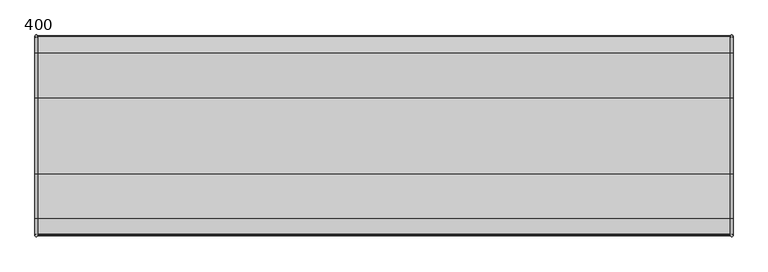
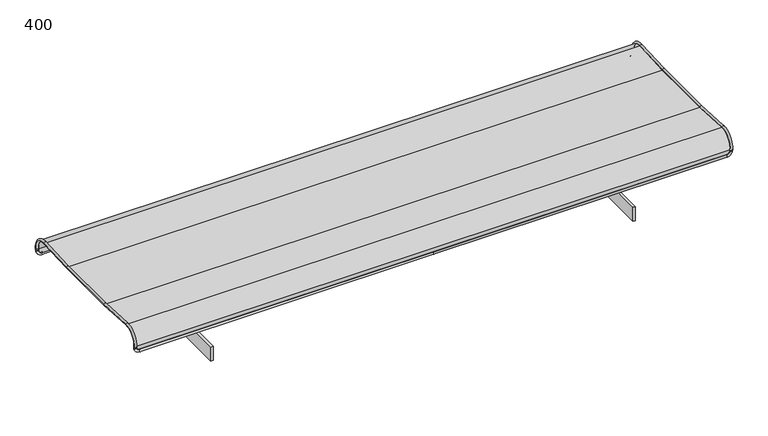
"""IFC4 building model written with IfcOpenShell, lengths in millimetres: furniture geometry, Vestre - Munch - 5106 : 400."""

import ifcopenshell
import ifcopenshell.guid

model = None  # the IFC model being written
_history = None  # IfcOwnerHistory: only IFC2X3 demands one
_inside = {}  # id of a spatial element -> (the spatial element, [elements in it])
_under = {}  # id of a project, library or spatial element -> (it, [spatial elements below it])
_declared = {}  # id of a project -> (the project, [libraries it declares])
_typed = {}  # id of a type object -> (the type object, [elements of that type])
_made_of = {}  # id of a material, layer set ... -> (it, [elements and type objects made of it])


def new_model(schema):
    """Start an empty IFC model of exactly this schema.

    Asked for "IFC4X3", IfcOpenShell would pick the latest addendum, in which some entities
    have other attributes; the version numbers below select the first issue.
    IFC2X3 requires an IfcOwnerHistory on every rooted entity: one is made here for all.
    """
    global model, _history
    if schema == "IFC4X3":
        model = ifcopenshell.file(schema_version=(4, 3, 0, 0))
    else:
        model = ifcopenshell.file(schema=schema)
    _inside.clear()
    _under.clear()
    _declared.clear()
    _typed.clear()
    _made_of.clear()
    _history = None
    if model.schema == "IFC2X3":
        org = make("IfcOrganization", Name="unknown")
        user = make(
            "IfcPersonAndOrganization",
            ThePerson=make("IfcPerson", FamilyName="unknown"),
            TheOrganization=org,
        )
        app = make(
            "IfcApplication",
            ApplicationDeveloper=org,
            Version="unknown",
            ApplicationFullName="unknown",
            ApplicationIdentifier="unknown",
        )
        _history = make(
            "IfcOwnerHistory",
            OwningUser=user,
            OwningApplication=app,
            ChangeAction="ADDED",
            CreationDate=0,
        )
    return model


def make(cls, **values):
    """One entity of the class cls with the attributes given. An attribute that is None is left unset."""
    return model.create_entity(
        cls, **{name: value for name, value in values.items() if value is not None}
    )


def rooted(cls, **values):
    """An entity with a GlobalId (a new one), such as an element, a storey or a relation."""
    return make(cls, GlobalId=ifcopenshell.guid.new(), OwnerHistory=_history, **values)


def si_unit(unit_type, name, prefix=None):
    """IfcSIUnit, for example si_unit("LENGTHUNIT", "METRE", prefix="MILLI")."""
    return make("IfcSIUnit", UnitType=unit_type, Prefix=prefix, Name=name)


def assignment(units):
    """IfcUnitAssignment: the units of a project."""
    return None if units is None else make("IfcUnitAssignment", Units=units)


def point(xyz):
    """IfcCartesianPoint."""
    return None if xyz is None else make("IfcCartesianPoint", Coordinates=xyz)


def direction(xyz):
    """IfcDirection."""
    return None if xyz is None else make("IfcDirection", DirectionRatios=xyz)


def frame(location, z_axis=None, x_axis=None):
    """IfcAxis2Placement3D, a coordinate frame: its origin and axes. An axis left out is left unset."""
    return make(
        "IfcAxis2Placement3D",
        Location=point(location),
        Axis=direction(z_axis),
        RefDirection=direction(x_axis),
    )


def frame_2d(location, x_axis=None):
    """IfcAxis2Placement2D, a coordinate frame in the plane: its origin and x axis."""
    return make(
        "IfcAxis2Placement2D", Location=point(location), RefDirection=direction(x_axis)
    )


def origin():
    """The frame at (0, 0, 0) with its axes left unset."""
    return frame((0.0, 0.0, 0.0))


def place(relative_to, where):
    """IfcLocalPlacement: puts the frame where relative to a parent placement (None: the world)."""
    return make(
        "IfcLocalPlacement", PlacementRelTo=relative_to, RelativePlacement=where
    )


def context(
    kind, dimensions, precision=None, world=None, true_north=None, identifier=None
):
    """IfcGeometricRepresentationContext, for example the 3D "Model" context."""
    return make(
        "IfcGeometricRepresentationContext",
        ContextIdentifier=identifier,
        ContextType=kind,
        CoordinateSpaceDimension=dimensions,
        Precision=precision,
        WorldCoordinateSystem=world,
        TrueNorth=true_north,
    )


def project(units=None, contexts=None):
    """IfcProject with its units and contexts."""
    return rooted(
        "IfcProject",
        Name="project",
        RepresentationContexts=contexts,
        UnitsInContext=assignment(units),
    )


def spatial(cls, under=None, at=None, **own):
    """A site, building, storey or space (cls), placed at a placement, below another one or the project."""
    s = rooted(cls, ObjectPlacement=at, **own)
    if under is not None:
        _under.setdefault(under.id(), (under, []))[1].append(s)
    return s


def polyline(points):
    """IfcPolyline through the points."""
    return make("IfcPolyline", Points=[point(p) for p in points])


def circle_curve(where, radius):
    """IfcCircle in the frame where."""
    return make("IfcCircle", Position=where, Radius=radius)


def ellipse_curve(where, semi_axis1, semi_axis2):
    """IfcEllipse in the frame where."""
    return make(
        "IfcEllipse", Position=where, SemiAxis1=semi_axis1, SemiAxis2=semi_axis2
    )


def trimmed(basis, trim1, trim2, sense, master):
    """IfcTrimmedCurve: the piece of a basis curve between two trims."""
    return make(
        "IfcTrimmedCurve",
        BasisCurve=basis,
        Trim1=trim1,
        Trim2=trim2,
        SenseAgreement=sense,
        MasterRepresentation=master,
    )


def segment(curve, same_sense, transition):
    """IfcCompositeCurveSegment."""
    return make(
        "IfcCompositeCurveSegment",
        Transition=transition,
        SameSense=same_sense,
        ParentCurve=curve,
    )


def composite_curve(segments, self_intersect=None):
    """IfcCompositeCurve: segments joined end to end."""
    return make("IfcCompositeCurve", Segments=segments, SelfIntersect=self_intersect)


def outline(outer, holes=None, kind="AREA"):
    """IfcArbitraryClosedProfileDef: a profile drawn as a closed curve; with holes, ...WithVoids."""
    if holes is None:
        return make("IfcArbitraryClosedProfileDef", ProfileType=kind, OuterCurve=outer)
    return make(
        "IfcArbitraryProfileDefWithVoids",
        ProfileType=kind,
        OuterCurve=outer,
        InnerCurves=holes,
    )


def extrude(swept, where, along, depth):
    """IfcExtrudedAreaSolid: the profile swept, set in the frame where, extruded along a direction by depth."""
    return make(
        "IfcExtrudedAreaSolid",
        SweptArea=swept,
        Position=where,
        ExtrudedDirection=direction(along),
        Depth=depth,
    )


def shape(context_of_items, identifier, shape_type, items):
    """IfcShapeRepresentation: the items that make up one representation, for example the "Body"."""
    return make(
        "IfcShapeRepresentation",
        ContextOfItems=context_of_items,
        RepresentationIdentifier=identifier,
        RepresentationType=shape_type,
        Items=items,
    )


def source(mapping_origin, context_of_items, identifier, shape_type, items):
    """IfcRepresentationMap: a shape defined once, which mapped items show again and again."""
    return make(
        "IfcRepresentationMap",
        MappingOrigin=mapping_origin,
        MappedRepresentation=shape(context_of_items, identifier, shape_type, items),
    )


def transform(
    local_origin,
    x_axis=None,
    y_axis=None,
    z_axis=None,
    scale=None,
    scale2=None,
    scale3=None,
    uniform=True,
):
    """IfcCartesianTransformationOperator3D, or its non-uniform kind. x_axis, y_axis, z_axis: its Axis1, 2, 3."""
    if uniform:
        return make(
            "IfcCartesianTransformationOperator3D",
            Axis1=direction(x_axis),
            Axis2=direction(y_axis),
            LocalOrigin=point(local_origin),
            Scale=scale,
            Axis3=direction(z_axis),
        )
    return make(
        "IfcCartesianTransformationOperator3DnonUniform",
        Axis1=direction(x_axis),
        Axis2=direction(y_axis),
        LocalOrigin=point(local_origin),
        Scale=scale,
        Axis3=direction(z_axis),
        Scale2=scale2,
        Scale3=scale3,
    )


def mapped(mapping_source, mapping_target):
    """IfcMappedItem: shows the shape of a source again, moved by a transform."""
    return make(
        "IfcMappedItem", MappingSource=mapping_source, MappingTarget=mapping_target
    )


def made_of(thing, what):
    """Note that an element or type object is made of a material, layer set ...; save() writes the relation."""
    if what is not None:
        _made_of.setdefault(what.id(), (what, []))[1].append(thing)
    return thing


def element(
    cls,
    number,
    at=None,
    inside=None,
    cuts=None,
    type_object=None,
    material=None,
    context=None,
    identifier="Body",
    shape_type=None,
    held_by="IfcProductDefinitionShape",
    body=None,
    shapes=None,
    **own,
):
    """One element of the class cls, such as IfcWall. Its Tag is "e" and its number.

    at: its placement. inside: the storey or other place that contains it. cuts: it is an
    opening in that element (IfcRelVoidsElement). A single representation is given by context,
    identifier, shape_type and body (its items); several are given by shapes. held_by: the class
    of the entity that holds the representations. save() writes the other relations.
    """
    e = rooted(cls, Tag="e%d" % number, ObjectPlacement=at, **own)
    if body is not None:
        shapes = [shape(context, identifier, shape_type, body)]
    if shapes is not None:
        e.Representation = make(held_by, Representations=shapes)
    if inside is not None:
        _inside.setdefault(inside.id(), (inside, []))[1].append(e)
    if cuts is not None:
        rooted(
            "IfcRelVoidsElement", RelatingBuildingElement=cuts, RelatedOpeningElement=e
        )
    if type_object is not None:
        _typed.setdefault(type_object.id(), (type_object, []))[1].append(e)
    return made_of(e, material)


def aggregate(whole, parts):
    """IfcRelAggregates: a whole, such as a stair, and the parts it consists of."""
    return rooted("IfcRelAggregates", RelatingObject=whole, RelatedObjects=parts)


def save(model, path):
    """Write the relations noted so far, then the file.

    IfcRelAggregates (storeys below a building ...), IfcRelContainedInSpatialStructure (elements
    in a storey), IfcRelDefinesByType, IfcRelAssociatesMaterial and IfcRelDeclares: one each for
    every whole, place, type object, material and project.
    """
    for whole, parts in _under.values():
        aggregate(whole, parts)
    for where, things in _inside.values():
        rooted(
            "IfcRelContainedInSpatialStructure",
            RelatedElements=things,
            RelatingStructure=where,
        )
    for kind, things in _typed.values():
        rooted("IfcRelDefinesByType", RelatedObjects=things, RelatingType=kind)
    for what, things in _made_of.values():
        rooted("IfcRelAssociatesMaterial", RelatedObjects=things, RelatingMaterial=what)
    for by, libraries in _declared.values():
        rooted("IfcRelDeclares", RelatingContext=by, RelatedDefinitions=libraries)
    model.write(path)


def cylinder_surface(at, radius):
    """IfcCylindricalSurface: all points at the distance radius from the z axis of the frame at."""
    return make("IfcCylindricalSurface", Position=at, Radius=radius)


def revolved_surface(curve, axis_point, axis_direction):
    """IfcSurfaceOfRevolution: the curve turned about the line through axis_point along axis_direction."""
    return make(
        "IfcSurfaceOfRevolution",
        SweptCurve=make("IfcArbitraryOpenProfileDef", ProfileType="CURVE", Curve=curve),
        AxisPosition=make("IfcAxis1Placement", Location=point(axis_point), Axis=direction(axis_direction)),
    )


def advanced_brep(points, edges, surfaces, faces):
    """IfcAdvancedBrep: a solid bounded by faces that lie on surfaces and meet in shared edges.

    An edge is (start, end): straight between two places in points (the first is 0);
    or (start, end, curve); or (start, end, curve, False) where it runs against its curve.
    A face is (place in surfaces, loops), or (place, loops, False) where it looks against
    its surface's normal. A loop lists edges by number (the first is 1), with a minus sign
    where the edge is run from its end to its start. The first loop is the outer one.
    """
    corners = [point(p) for p in points]
    vertices = [make("IfcVertexPoint", VertexGeometry=c) for c in corners]
    made = []
    for start, end, *more in edges:
        made.append(
            make(
                "IfcEdgeCurve",
                EdgeStart=vertices[start],
                EdgeEnd=vertices[end],
                EdgeGeometry=more[0] if more else make("IfcPolyline", Points=[corners[start], corners[end]]),
                SameSense=more[1] if len(more) > 1 else True,
            )
        )
    hull = []
    for where, loops, *sense in faces:
        bounds = []
        for j, loop in enumerate(loops):
            ring = [make("IfcOrientedEdge", EdgeElement=made[abs(k) - 1], Orientation=k > 0) for k in loop]
            bounds.append(
                make(
                    "IfcFaceOuterBound" if j == 0 else "IfcFaceBound",
                    Bound=make("IfcEdgeLoop", EdgeList=ring),
                    Orientation=True,
                )
            )
        hull.append(make("IfcAdvancedFace", Bounds=bounds, FaceSurface=surfaces[where], SameSense=sense[0] if sense else True))
    return make("IfcAdvancedBrep", Outer=make("IfcClosedShell", CfsFaces=hull))


def furniture_400_deac8230(model_context):
    return source(origin(), model_context, "Body", "SolidModel", [
        advanced_brep(
        [(-999.5462493, 284.4659394, 360.5104882), (-999.5462493, 284.7053914, 362.4961022), (-991.5462493, 284.7053914, 362.4961022), (-991.5462493, 284.4659394, 360.5104882), (-999.5462493, 237.4859431, 412.9140708), (-991.5462493, 237.4859431, 412.9140708), (-999.5462493, 108.7493766, 405.8885189), (-991.5462493, 108.7493766, 405.8885189), (-999.5462493, -108.7732306, 405.8885189), (-991.5462493, -108.7732306, 405.8885189), (-999.5462493, -236.3198142, 412.8491298), (-991.5462493, -236.3198142, 412.8491298), (-999.5462493, -284.5865614, 361.3129209), (-991.5462493, -284.5865614, 361.3129209), (-999.5462493, -284.3471094, 359.3273069), (-991.5462493, -284.3471094, 359.3273069), (0.0, 282.8913258, 347.4532831), (-980.5462493, 282.8913258, 347.4532831), (-980.5462493, 281.9335176, 339.5108274), (0.0, 281.9335176, 339.5108274), (-999.5462493, 284.2083121, 358.3741598), (-991.5462493, 284.2083121, 358.3741598), (0.0, -281.8146877, 338.3276461), (-980.5462493, -281.8146877, 338.3276461), (-980.5462493, -282.7724959, 346.2701019), (0.0, -282.7724959, 346.2701019), (-991.5462493, -284.0894821, 357.1909785), (-999.5462493, -284.0894821, 357.1909785), (980.5462493, -282.7724959, 346.2701019), (980.5462493, -281.8146877, 338.3276461), (999.5462493, -284.0894821, 357.1909785), (991.5462493, -284.0894821, 357.1909785), (991.5462493, -284.3471094, 359.3273069), (999.5462493, -284.3471094, 359.3273069), (991.5462493, 284.4659394, 360.5104882), (991.5462493, 284.7053914, 362.4961022), (999.5462493, 284.7053914, 362.4961022), (999.5462493, 284.4659394, 360.5104882), (991.5462493, 237.4859431, 412.9140708), (999.5462493, 237.4859431, 412.9140708), (991.5462493, 108.7493766, 405.8885189), (999.5462493, 108.7493766, 405.8885189), (991.5462493, -108.7732306, 405.8885189), (999.5462493, -108.7732306, 405.8885189), (991.5462493, -236.3198142, 412.8491298), (999.5462493, -236.3198142, 412.8491298), (991.5462493, -284.5865614, 361.3129209), (999.5462493, -284.5865614, 361.3129209), (980.5462493, 281.9335176, 339.5108274), (980.5462493, 282.8913258, 347.4532831), (991.5462493, 284.2083121, 358.3741598), (999.5462493, 284.2083121, 358.3741598)],
        [
            (0, 1),
            (1, 2, circle_curve(frame((-995.5462493, 284.7053914, 362.4961022), z_axis=(0.0, -0.11972602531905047, -0.9928069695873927), x_axis=(1.0, 0.0, 0.0)), 4.0)),
            (2, 3),
            (3, 0, circle_curve(frame((-995.5462493, 284.4659394, 360.5104882), z_axis=(0.0, 0.11972602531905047, 0.9928069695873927), x_axis=(1.0, 0.0, 0.0)), 4.0)),
            (0, 3, circle_curve(frame((-995.5462493, 284.4659394, 360.5104882), z_axis=(0.0, 0.11972602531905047, 0.9928069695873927), x_axis=(1.0, 0.0, 0.0)), 4.0)),
            (2, 1, circle_curve(frame((-995.5462493, 284.7053914, 362.4961022), z_axis=(0.0, -0.11972602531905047, -0.9928069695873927), x_axis=(1.0, 0.0, 0.0)), 4.0)),
            (1, 4, circle_curve(frame((-999.5462493, 239.9428178, 367.8941757), z_axis=(1.0, 0.0, 0.0), x_axis=(0.0, 0.9928069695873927, -0.11972602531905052)), 45.0868849)),
            (4, 5, circle_curve(frame((-995.5462493, 237.4859431, 412.9140708), z_axis=(0.0, 0.9985142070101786, 0.05449200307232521), x_axis=(1.0, 0.0, 0.0)), 4.0)),
            (5, 2, circle_curve(frame((-991.5462493, 239.9428178, 367.8941757), z_axis=(-1.0, 0.0, 0.0), x_axis=(0.0, 0.9928069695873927, -0.11972602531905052)), 45.0868849)),
            (5, 4, circle_curve(frame((-995.5462493, 237.4859431, 412.9140708), z_axis=(0.0, 0.9985142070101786, 0.05449200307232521), x_axis=(1.0, 0.0, 0.0)), 4.0)),
            (4, 6),
            (6, 7, circle_curve(frame((-995.5462493, 108.7493766, 405.8885189), z_axis=(0.0, 0.9985142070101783, 0.0544920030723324), x_axis=(1.0, 0.0, 0.0)), 4.0)),
            (7, 5),
            (7, 6, circle_curve(frame((-995.5462493, 108.7493766, 405.8885189), z_axis=(0.0, 0.9985142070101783, 0.0544920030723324), x_axis=(1.0, 0.0, 0.0)), 4.0)),
            (6, 8, circle_curve(frame((-999.5462493, -0.011927, 2398.8361203), z_axis=(-1.0, 0.0, 0.0), x_axis=(0.0, 0.054492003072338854, -0.9985142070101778)), 1995.9131151)),
            (8, 9, circle_curve(frame((-995.5462493, -108.7732306, 405.8885189), z_axis=(0.0, 0.9985142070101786, -0.05449200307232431), x_axis=(1.0, 0.0, 0.0)), 4.0)),
            (9, 7, circle_curve(frame((-991.5462493, -0.011927, 2398.8361203), z_axis=(1.0, 0.0, 0.0), x_axis=(0.0, 0.054492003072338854, -0.9985142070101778)), 1995.9131151)),
            (9, 8, circle_curve(frame((-995.5462493, -108.7732306, 405.8885189), z_axis=(0.0, 0.9985142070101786, -0.05449200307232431), x_axis=(1.0, 0.0, 0.0)), 4.0)),
            (8, 10),
            (10, 11, circle_curve(frame((-995.5462493, -236.3198142, 412.8491298), z_axis=(0.0, 0.9985142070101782, -0.05449200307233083), x_axis=(1.0, 0.0, 0.0)), 4.0)),
            (11, 9),
            (11, 10, circle_curve(frame((-995.5462493, -236.3198142, 412.8491298), z_axis=(0.0, 0.9985142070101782, -0.05449200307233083), x_axis=(1.0, 0.0, 0.0)), 4.0)),
            (10, 12, circle_curve(frame((-999.5462493, -238.8311808, 366.8307204), z_axis=(1.0, 0.0, 0.0), x_axis=(0.0, 0.05449200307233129, 0.9985142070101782)), 46.0868849)),
            (12, 13, circle_curve(frame((-995.5462493, -284.5865614, 361.3129209), z_axis=(0.0, -0.11972602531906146, 0.9928069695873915), x_axis=(1.0, 0.0, 0.0)), 4.0)),
            (13, 11, circle_curve(frame((-991.5462493, -238.8311808, 366.8307204), z_axis=(-1.0, 0.0, 0.0), x_axis=(0.0, 0.05449200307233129, 0.9985142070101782)), 46.0868849)),
            (13, 12, circle_curve(frame((-995.5462493, -284.5865614, 361.3129209), z_axis=(0.0, -0.11972602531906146, 0.9928069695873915), x_axis=(1.0, 0.0, 0.0)), 4.0)),
            (12, 14),
            (14, 15, circle_curve(frame((-995.5462493, -284.3471094, 359.3273069), z_axis=(0.0, -0.11972602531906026, 0.9928069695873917), x_axis=(1.0, 0.0, 0.0)), 4.0)),
            (15, 13),
            (15, 14, circle_curve(frame((-995.5462493, -284.3471094, 359.3273069), z_axis=(0.0, -0.11972602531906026, 0.9928069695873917), x_axis=(1.0, 0.0, 0.0)), 4.0)),
            (16, 17),
            (17, 18, circle_curve(frame((-980.5462493, 282.4124217, 343.4820553), z_axis=(1.0, 0.0, 0.0), x_axis=(0.0, 0.1197260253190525, 0.9928069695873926)), 4.0)),
            (18, 19),
            (19, 16, circle_curve(frame((0.0, 282.4124217, 343.4820553), z_axis=(-1.0, 0.0, 0.0), x_axis=(0.0, 0.1197260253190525, 0.9928069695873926)), 4.0)),
            (16, 19, circle_curve(frame((0.0, 282.4124217, 343.4820553), z_axis=(-1.0, 0.0, 0.0), x_axis=(0.0, 0.1197260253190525, 0.9928069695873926)), 4.0)),
            (18, 17, circle_curve(frame((-980.5462493, 282.4124217, 343.4820553), z_axis=(1.0, 0.0, 0.0), x_axis=(0.0, 0.1197260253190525, 0.9928069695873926)), 4.0)),
            (20, 21, circle_curve(frame((-995.5462493, 284.2083121, 358.3741598), z_axis=(0.0, 0.11972602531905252, 0.9928069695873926), x_axis=(1.0, 0.0, 0.0)), 4.0)),
            (21, 3),
            (0, 20),
            (21, 20, circle_curve(frame((-995.5462493, 284.2083121, 358.3741598), z_axis=(0.0, 0.11972602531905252, 0.9928069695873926), x_axis=(1.0, 0.0, 0.0)), 4.0)),
            (17, 21, circle_curve(frame((-980.5462493, 284.2083121, 358.3741598), z_axis=(0.0, 0.9928069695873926, -0.1197260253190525), x_axis=(0.0, -0.1197260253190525, -0.9928069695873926)), 11.0)),
            (20, 18, circle_curve(frame((-980.5462493, 284.2083121, 358.3741598), z_axis=(0.0, -0.9928069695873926, 0.1197260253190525), x_axis=(0.0, -0.1197260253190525, -0.9928069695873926)), 19.0)),
            (22, 23),
            (23, 24, circle_curve(frame((-980.5462493, -282.2935918, 342.298874), z_axis=(1.0, 0.0, 0.0), x_axis=(0.0, -0.1197260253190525, 0.9928069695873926)), 4.0)),
            (24, 25),
            (25, 22, circle_curve(frame((0.0, -282.2935918, 342.298874), z_axis=(-1.0, 0.0, 0.0), x_axis=(0.0, -0.1197260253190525, 0.9928069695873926)), 4.0)),
            (22, 25, circle_curve(frame((0.0, -282.2935918, 342.298874), z_axis=(-1.0, 0.0, 0.0), x_axis=(0.0, -0.1197260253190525, 0.9928069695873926)), 4.0)),
            (24, 23, circle_curve(frame((-980.5462493, -282.2935918, 342.298874), z_axis=(1.0, 0.0, 0.0), x_axis=(0.0, -0.1197260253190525, 0.9928069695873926)), 4.0)),
            (26, 27, circle_curve(frame((-995.5462493, -284.0894821, 357.1909785), z_axis=(0.0, -0.11972602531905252, 0.9928069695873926), x_axis=(1.0, 0.0, 0.0)), 4.0)),
            (27, 14),
            (15, 26),
            (27, 26, circle_curve(frame((-995.5462493, -284.0894821, 357.1909785), z_axis=(0.0, -0.11972602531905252, 0.9928069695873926), x_axis=(1.0, 0.0, 0.0)), 4.0)),
            (23, 27, circle_curve(frame((-980.5462493, -284.0894821, 357.1909785), z_axis=(0.0, 0.9928069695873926, 0.1197260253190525), x_axis=(0.0, 0.1197260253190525, -0.9928069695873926)), 19.0)),
            (26, 24, circle_curve(frame((-980.5462493, -284.0894821, 357.1909785), z_axis=(0.0, -0.9928069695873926, -0.1197260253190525), x_axis=(0.0, 0.1197260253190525, -0.9928069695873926)), 11.0)),
            (25, 28),
            (28, 29, circle_curve(frame((980.5462493, -282.2935918, 342.298874), z_axis=(-1.0, 0.0, 0.0), x_axis=(0.0, -0.1197260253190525, 0.9928069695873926)), 4.0)),
            (29, 22),
            (29, 28, circle_curve(frame((980.5462493, -282.2935918, 342.298874), z_axis=(-1.0, 0.0, 0.0), x_axis=(0.0, -0.1197260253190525, 0.9928069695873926)), 4.0)),
            (30, 31, circle_curve(frame((995.5462493, -284.0894821, 357.1909785), z_axis=(0.0, -0.11972602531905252, 0.9928069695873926), x_axis=(-1.0, 0.0, 0.0)), 4.0)),
            (31, 32),
            (32, 33, circle_curve(frame((995.5462493, -284.3471094, 359.3273069), z_axis=(0.0, 0.11972602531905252, -0.9928069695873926), x_axis=(-1.0, 0.0, 0.0)), 4.0)),
            (33, 30),
            (31, 30, circle_curve(frame((995.5462493, -284.0894821, 357.1909785), z_axis=(0.0, -0.11972602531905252, 0.9928069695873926), x_axis=(-1.0, 0.0, 0.0)), 4.0)),
            (33, 32, circle_curve(frame((995.5462493, -284.3471094, 359.3273069), z_axis=(0.0, 0.11972602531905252, -0.9928069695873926), x_axis=(-1.0, 0.0, 0.0)), 4.0)),
            (28, 31, circle_curve(frame((980.5462493, -284.0894821, 357.1909785), z_axis=(0.0, -0.9928069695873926, -0.1197260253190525), x_axis=(0.0, 0.1197260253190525, -0.9928069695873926)), 11.0)),
            (30, 29, circle_curve(frame((980.5462493, -284.0894821, 357.1909785), z_axis=(0.0, 0.9928069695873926, 0.1197260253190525), x_axis=(0.0, 0.1197260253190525, -0.9928069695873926)), 19.0)),
            (34, 35),
            (35, 36, circle_curve(frame((995.5462493, 284.7053914, 362.4961022), z_axis=(0.0, -0.11972602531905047, -0.9928069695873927), x_axis=(-1.0, 0.0, 0.0)), 4.0)),
            (36, 37),
            (37, 34, circle_curve(frame((995.5462493, 284.4659394, 360.5104882), z_axis=(0.0, 0.11972602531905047, 0.9928069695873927), x_axis=(-1.0, 0.0, 0.0)), 4.0)),
            (34, 37, circle_curve(frame((995.5462493, 284.4659394, 360.5104882), z_axis=(0.0, 0.11972602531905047, 0.9928069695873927), x_axis=(-1.0, 0.0, 0.0)), 4.0)),
            (36, 35, circle_curve(frame((995.5462493, 284.7053914, 362.4961022), z_axis=(0.0, -0.11972602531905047, -0.9928069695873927), x_axis=(-1.0, 0.0, 0.0)), 4.0)),
            (35, 38, circle_curve(frame((991.5462493, 239.9428178, 367.8941757), z_axis=(1.0, 0.0, 0.0), x_axis=(0.0, 0.9928069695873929, -0.11972602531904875)), 45.0868849)),
            (38, 39, circle_curve(frame((995.5462493, 237.4859431, 412.9140708), z_axis=(0.0, 0.9985142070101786, 0.05449200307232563), x_axis=(-1.0, 0.0, 0.0)), 4.0)),
            (39, 36, circle_curve(frame((999.5462493, 239.9428178, 367.8941757), z_axis=(-1.0, 0.0, 0.0), x_axis=(0.0, 0.9928069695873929, -0.11972602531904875)), 45.0868849)),
            (39, 38, circle_curve(frame((995.5462493, 237.4859431, 412.9140708), z_axis=(0.0, 0.9985142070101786, 0.05449200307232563), x_axis=(-1.0, 0.0, 0.0)), 4.0)),
            (38, 40),
            (40, 41, circle_curve(frame((995.5462493, 108.7493766, 405.8885189), z_axis=(0.0, 0.9985142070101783, 0.05449200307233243), x_axis=(-1.0, 0.0, 0.0)), 4.0)),
            (41, 39),
            (41, 40, circle_curve(frame((995.5462493, 108.7493766, 405.8885189), z_axis=(0.0, 0.9985142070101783, 0.05449200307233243), x_axis=(-1.0, 0.0, 0.0)), 4.0)),
            (40, 42, circle_curve(frame((991.5462493, -0.011927, 2398.8361203), z_axis=(-1.0, 0.0, 0.0), x_axis=(0.0, 0.054492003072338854, -0.9985142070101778)), 1995.9131151)),
            (42, 43, circle_curve(frame((995.5462493, -108.7732306, 405.8885189), z_axis=(0.0, 0.9985142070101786, -0.05449200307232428), x_axis=(-1.0, 0.0, 0.0)), 4.0)),
            (43, 41, circle_curve(frame((999.5462493, -0.011927, 2398.8361203), z_axis=(1.0, 0.0, 0.0), x_axis=(0.0, 0.054492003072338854, -0.9985142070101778)), 1995.9131151)),
            (43, 42, circle_curve(frame((995.5462493, -108.7732306, 405.8885189), z_axis=(0.0, 0.9985142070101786, -0.05449200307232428), x_axis=(-1.0, 0.0, 0.0)), 4.0)),
            (42, 44),
            (44, 45, circle_curve(frame((995.5462493, -236.3198142, 412.8491298), z_axis=(0.0, 0.9985142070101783, -0.05449200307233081), x_axis=(-1.0, 0.0, 0.0)), 4.0)),
            (45, 43),
            (45, 44, circle_curve(frame((995.5462493, -236.3198142, 412.8491298), z_axis=(0.0, 0.9985142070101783, -0.05449200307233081), x_axis=(-1.0, 0.0, 0.0)), 4.0)),
            (44, 46, circle_curve(frame((991.5462493, -238.8311808, 366.8307204), z_axis=(1.0, 0.0, 0.0), x_axis=(0.0, 0.05449200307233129, 0.9985142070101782)), 46.0868849)),
            (46, 47, circle_curve(frame((995.5462493, -284.5865614, 361.3129209), z_axis=(0.0, -0.11972602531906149, 0.9928069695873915), x_axis=(-1.0, 0.0, 0.0)), 4.0)),
            (47, 45, circle_curve(frame((999.5462493, -238.8311808, 366.8307204), z_axis=(-1.0, 0.0, 0.0), x_axis=(0.0, 0.05449200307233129, 0.9985142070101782)), 46.0868849)),
            (47, 46, circle_curve(frame((995.5462493, -284.5865614, 361.3129209), z_axis=(0.0, -0.11972602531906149, 0.9928069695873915), x_axis=(-1.0, 0.0, 0.0)), 4.0)),
            (46, 32),
            (33, 47),
            (19, 48),
            (48, 49, circle_curve(frame((980.5462493, 282.4124217, 343.4820553), z_axis=(-1.0, 0.0, 0.0), x_axis=(0.0, 0.1197260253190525, 0.9928069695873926)), 4.0)),
            (49, 16),
            (49, 48, circle_curve(frame((980.5462493, 282.4124217, 343.4820553), z_axis=(-1.0, 0.0, 0.0), x_axis=(0.0, 0.1197260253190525, 0.9928069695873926)), 4.0)),
            (50, 51, circle_curve(frame((995.5462493, 284.2083121, 358.3741598), z_axis=(0.0, 0.11972602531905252, 0.9928069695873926), x_axis=(-1.0, 0.0, 0.0)), 4.0)),
            (51, 37),
            (34, 50),
            (51, 50, circle_curve(frame((995.5462493, 284.2083121, 358.3741598), z_axis=(0.0, 0.11972602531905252, 0.9928069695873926), x_axis=(-1.0, 0.0, 0.0)), 4.0)),
            (48, 51, circle_curve(frame((980.5462493, 284.2083121, 358.3741598), z_axis=(0.0, -0.9928069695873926, 0.1197260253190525), x_axis=(0.0, -0.1197260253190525, -0.9928069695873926)), 19.0)),
            (50, 49, circle_curve(frame((980.5462493, 284.2083121, 358.3741598), z_axis=(0.0, 0.9928069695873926, -0.1197260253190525), x_axis=(0.0, -0.1197260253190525, -0.9928069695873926)), 11.0)),
        ],
        [
            cylinder_surface(frame((-995.5462493, 284.4659394, 360.5104882), z_axis=(0.0, -0.11972602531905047, -0.9928069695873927), x_axis=(1.0, 0.0, 0.0)), 4.0),
            revolved_surface(trimmed(ellipse_curve(frame((-995.5462493, 284.7053914, 362.4961022), z_axis=(0.0, -0.1197260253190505, -0.9928069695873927), x_axis=(1.0, 0.0, 0.0)), 4.0, 4.0), [point((-999.5462493, 284.7053914, 362.4961022))], [point((-991.5462493, 284.7053914, 362.4961022))], True, "CARTESIAN"), (-646.1061414, 239.9428178, 367.8941757), (1.0, 0.0, 0.0)),
            revolved_surface(trimmed(ellipse_curve(frame((-995.5462493, 284.7053914, 362.4961022), z_axis=(0.0, -0.1197260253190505, -0.9928069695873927), x_axis=(1.0, 0.0, 0.0)), 4.0, 4.0), [point((-991.5462493, 284.7053914, 362.4961022))], [point((-999.5462493, 284.7053914, 362.4961022))], True, "CARTESIAN"), (-646.1061414, 239.9428178, 367.8941757), (1.0, 0.0, 0.0)),
            cylinder_surface(frame((-995.5462493, 237.4859431, 412.9140708), z_axis=(0.0, 0.9985142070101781, 0.05449200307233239), x_axis=(1.0, 0.0, 0.0)), 4.0),
            revolved_surface(trimmed(ellipse_curve(frame((-995.5462493, 108.7493766, 405.8885189), z_axis=(0.0, 0.9985142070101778, 0.054492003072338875), x_axis=(1.0, 0.0, 0.0)), 4.0, 4.0), [point((-999.5462493, 108.7493766, 405.8885189))], [point((-991.5462493, 108.7493766, 405.8885189))], True, "CARTESIAN"), (-646.1061414, -0.011927, 2398.8361203), (-1.0, 0.0, 0.0)),
            revolved_surface(trimmed(ellipse_curve(frame((-995.5462493, 108.7493766, 405.8885189), z_axis=(0.0, 0.9985142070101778, 0.054492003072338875), x_axis=(1.0, 0.0, 0.0)), 4.0, 4.0), [point((-991.5462493, 108.7493766, 405.8885189))], [point((-999.5462493, 108.7493766, 405.8885189))], True, "CARTESIAN"), (-646.1061414, -0.011927, 2398.8361203), (-1.0, 0.0, 0.0)),
            cylinder_surface(frame((-995.5462493, -108.7732306, 405.8885189), z_axis=(0.0, 0.9985142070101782, -0.05449200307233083), x_axis=(1.0, 0.0, 0.0)), 4.0),
            revolved_surface(trimmed(ellipse_curve(frame((-995.5462493, -236.3198142, 412.8491298), z_axis=(0.0, 0.9985142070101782, -0.05449200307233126), x_axis=(1.0, 0.0, 0.0)), 4.0, 4.0), [point((-999.5462493, -236.3198142, 412.8491298))], [point((-991.5462493, -236.3198142, 412.8491298))], True, "CARTESIAN"), (-646.1061414, -238.8311808, 366.8307204), (1.0, 0.0, 0.0)),
            revolved_surface(trimmed(ellipse_curve(frame((-995.5462493, -236.3198142, 412.8491298), z_axis=(0.0, 0.9985142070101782, -0.05449200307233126), x_axis=(1.0, 0.0, 0.0)), 4.0, 4.0), [point((-991.5462493, -236.3198142, 412.8491298))], [point((-999.5462493, -236.3198142, 412.8491298))], True, "CARTESIAN"), (-646.1061414, -238.8311808, 366.8307204), (1.0, 0.0, 0.0)),
            cylinder_surface(frame((-995.5462493, -284.5865614, 361.3129209), z_axis=(0.0, -0.11972602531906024, 0.9928069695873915), x_axis=(1.0, 0.0, 0.0)), 4.0),
            cylinder_surface(frame((0.0, 282.4124217, 343.4820553), z_axis=(1.0000000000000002, 0.0, 0.0), x_axis=(0.0, 0.1197260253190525, 0.9928069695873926)), 4.0),
            cylinder_surface(frame((-995.5462493, 284.2083121, 358.3741598), z_axis=(0.0, -0.11972602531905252, -0.9928069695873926), x_axis=(1.0, 0.0, 0.0)), 4.0),
            revolved_surface(trimmed(ellipse_curve(frame((-980.5462493, 282.4124217, 343.4820553), z_axis=(1.0000000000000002, 0.0, 0.0), x_axis=(0.0, 0.1197260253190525, 0.9928069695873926)), 4.0, 4.0), [point((-980.5462493, 282.8913258, 347.4532831))], [point((-980.5462493, 281.9335176, 339.5108274))], True, "CARTESIAN"), (-980.5462493, 1024.8202347, 269.0612072), (0.0, 0.9928069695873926, -0.1197260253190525)),
            revolved_surface(trimmed(ellipse_curve(frame((-980.5462493, 282.4124217, 343.4820553), z_axis=(1.0000000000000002, 0.0, 0.0), x_axis=(0.0, 0.1197260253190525, 0.9928069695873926)), 4.0, 4.0), [point((-980.5462493, 281.9335176, 339.5108274))], [point((-980.5462493, 282.8913258, 347.4532831))], True, "CARTESIAN"), (-980.5462493, 1024.8202347, 269.0612072), (0.0, 0.9928069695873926, -0.1197260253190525)),
            cylinder_surface(frame((0.0, -282.2935918, 342.298874), z_axis=(1.0000000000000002, 0.0, 0.0), x_axis=(0.0, -0.1197260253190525, 0.9928069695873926)), 4.0),
            cylinder_surface(frame((-995.5462493, -284.0894821, 357.1909785), z_axis=(0.0, 0.11972602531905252, -0.9928069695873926), x_axis=(1.0, 0.0, 0.0)), 4.0),
            revolved_surface(trimmed(ellipse_curve(frame((-980.5462493, -282.2935918, 342.298874), z_axis=(1.0000000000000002, 0.0, 0.0), x_axis=(0.0, -0.1197260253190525, 0.9928069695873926)), 4.0, 4.0), [point((-980.5462493, -281.8146877, 338.3276461))], [point((-980.5462493, -282.7724959, 346.2701019))], True, "CARTESIAN"), (-980.5462493, -1024.7014047, 267.878026), (0.0, 0.9928069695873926, 0.1197260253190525)),
            revolved_surface(trimmed(ellipse_curve(frame((-980.5462493, -282.2935918, 342.298874), z_axis=(1.0000000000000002, 0.0, 0.0), x_axis=(0.0, -0.1197260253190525, 0.9928069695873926)), 4.0, 4.0), [point((-980.5462493, -282.7724959, 346.2701019))], [point((-980.5462493, -281.8146877, 338.3276461))], True, "CARTESIAN"), (-980.5462493, -1024.7014047, 267.878026), (0.0, 0.9928069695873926, 0.1197260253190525)),
            cylinder_surface(frame((0.0, -282.2935918, 342.298874), z_axis=(-1.0000000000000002, 0.0, 0.0), x_axis=(0.0, -0.1197260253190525, 0.9928069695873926)), 4.0),
            cylinder_surface(frame((995.5462493, -284.0894821, 357.1909785), z_axis=(0.0, 0.11972602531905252, -0.9928069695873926), x_axis=(-1.0, 0.0, 0.0)), 4.0),
            revolved_surface(trimmed(ellipse_curve(frame((980.5462493, -282.2935918, 342.298874), z_axis=(-1.0000000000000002, 0.0, 0.0), x_axis=(0.0, -0.1197260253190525, 0.9928069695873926)), 4.0, 4.0), [point((980.5462493, -282.7724959, 346.2701019))], [point((980.5462493, -281.8146877, 338.3276461))], True, "CARTESIAN"), (980.5462493, -1024.7014047, 267.878026), (0.0, -0.9928069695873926, -0.1197260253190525)),
            revolved_surface(trimmed(ellipse_curve(frame((980.5462493, -282.2935918, 342.298874), z_axis=(-1.0000000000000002, 0.0, 0.0), x_axis=(0.0, -0.1197260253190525, 0.9928069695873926)), 4.0, 4.0), [point((980.5462493, -281.8146877, 338.3276461))], [point((980.5462493, -282.7724959, 346.2701019))], True, "CARTESIAN"), (980.5462493, -1024.7014047, 267.878026), (0.0, -0.9928069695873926, -0.1197260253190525)),
            cylinder_surface(frame((995.5462493, 284.4659394, 360.5104882), z_axis=(0.0, -0.11972602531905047, -0.9928069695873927), x_axis=(-1.0, 0.0, 0.0)), 4.0),
            revolved_surface(trimmed(ellipse_curve(frame((995.5462493, 284.7053914, 362.4961022), z_axis=(0.0, -0.11972602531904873, -0.9928069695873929), x_axis=(-1.0, 0.0, 0.0)), 4.0, 4.0), [point((991.5462493, 284.7053914, 362.4961022))], [point((999.5462493, 284.7053914, 362.4961022))], True, "CARTESIAN"), (646.1061414, 239.9428178, 367.8941757), (1.0, 0.0, 0.0)),
            revolved_surface(trimmed(ellipse_curve(frame((995.5462493, 284.7053914, 362.4961022), z_axis=(0.0, -0.11972602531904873, -0.9928069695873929), x_axis=(-1.0, 0.0, 0.0)), 4.0, 4.0), [point((999.5462493, 284.7053914, 362.4961022))], [point((991.5462493, 284.7053914, 362.4961022))], True, "CARTESIAN"), (646.1061414, 239.9428178, 367.8941757), (1.0, 0.0, 0.0)),
            cylinder_surface(frame((995.5462493, 237.4859431, 412.9140708), z_axis=(0.0, 0.9985142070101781, 0.054492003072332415), x_axis=(-1.0, 0.0, 0.0)), 4.0),
            revolved_surface(trimmed(ellipse_curve(frame((995.5462493, 108.7493766, 405.8885189), z_axis=(0.0, 0.9985142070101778, 0.0544920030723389), x_axis=(-1.0, 0.0, 0.0)), 4.0, 4.0), [point((991.5462493, 108.7493766, 405.8885189))], [point((999.5462493, 108.7493766, 405.8885189))], True, "CARTESIAN"), (646.1061414, -0.011927, 2398.8361203), (-1.0, 0.0, 0.0)),
            revolved_surface(trimmed(ellipse_curve(frame((995.5462493, 108.7493766, 405.8885189), z_axis=(0.0, 0.9985142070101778, 0.0544920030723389), x_axis=(-1.0, 0.0, 0.0)), 4.0, 4.0), [point((999.5462493, 108.7493766, 405.8885189))], [point((991.5462493, 108.7493766, 405.8885189))], True, "CARTESIAN"), (646.1061414, -0.011927, 2398.8361203), (-1.0, 0.0, 0.0)),
            cylinder_surface(frame((995.5462493, -108.7732306, 405.8885189), z_axis=(0.0, 0.9985142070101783, -0.05449200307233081), x_axis=(-1.0, 0.0, 0.0)), 4.0),
            revolved_surface(trimmed(ellipse_curve(frame((995.5462493, -236.3198142, 412.8491298), z_axis=(0.0, 0.9985142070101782, -0.054492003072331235), x_axis=(-1.0, 0.0, 0.0)), 4.0, 4.0), [point((991.5462493, -236.3198142, 412.8491298))], [point((999.5462493, -236.3198142, 412.8491298))], True, "CARTESIAN"), (646.1061414, -238.8311808, 366.8307204), (1.0, 0.0, 0.0)),
            revolved_surface(trimmed(ellipse_curve(frame((995.5462493, -236.3198142, 412.8491298), z_axis=(0.0, 0.9985142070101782, -0.054492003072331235), x_axis=(-1.0, 0.0, 0.0)), 4.0, 4.0), [point((999.5462493, -236.3198142, 412.8491298))], [point((991.5462493, -236.3198142, 412.8491298))], True, "CARTESIAN"), (646.1061414, -238.8311808, 366.8307204), (1.0, 0.0, 0.0)),
            cylinder_surface(frame((995.5462493, -284.5865614, 361.3129209), z_axis=(0.0, -0.11972602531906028, 0.9928069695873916), x_axis=(-1.0, 0.0, 0.0)), 4.0),
            cylinder_surface(frame((0.0, 282.4124217, 343.4820553), z_axis=(-1.0000000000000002, 0.0, 0.0), x_axis=(0.0, 0.1197260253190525, 0.9928069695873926)), 4.0),
            cylinder_surface(frame((995.5462493, 284.2083121, 358.3741598), z_axis=(0.0, -0.11972602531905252, -0.9928069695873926), x_axis=(-1.0, 0.0, 0.0)), 4.0),
            revolved_surface(trimmed(ellipse_curve(frame((980.5462493, 282.4124217, 343.4820553), z_axis=(-1.0000000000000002, 0.0, 0.0), x_axis=(0.0, 0.1197260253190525, 0.9928069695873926)), 4.0, 4.0), [point((980.5462493, 281.9335176, 339.5108274))], [point((980.5462493, 282.8913258, 347.4532831))], True, "CARTESIAN"), (980.5462493, 1024.8202347, 269.0612072), (0.0, -0.9928069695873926, 0.1197260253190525)),
            revolved_surface(trimmed(ellipse_curve(frame((980.5462493, 282.4124217, 343.4820553), z_axis=(-1.0000000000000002, 0.0, 0.0), x_axis=(0.0, 0.1197260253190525, 0.9928069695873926)), 4.0, 4.0), [point((980.5462493, 282.8913258, 347.4532831))], [point((980.5462493, 281.9335176, 339.5108274))], True, "CARTESIAN"), (980.5462493, 1024.8202347, 269.0612072), (0.0, -0.9928069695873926, 0.1197260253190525)),
        ],
        [
            (0, [[1, 2, 3, 4]]),
            (0, [[-1, 5, -3, 6]]),
            (1, [[-2, 7, 8, 9]]),
            (2, [[-6, -9, 10, -7]]),
            (3, [[-8, 11, 12, 13]]),
            (3, [[-10, -13, 14, -11]]),
            (4, [[-12, 15, 16, 17]]),
            (5, [[-14, -17, 18, -15]]),
            (6, [[-16, 19, 20, 21]]),
            (6, [[-18, -21, 22, -19]]),
            (7, [[-20, 23, 24, 25]]),
            (8, [[-22, -25, 26, -23]]),
            (9, [[-24, 27, 28, 29]]),
            (9, [[-26, -29, 30, -27]]),
            (10, [[31, 32, 33, 34]]),
            (10, [[-31, 35, -33, 36]]),
            (11, [[37, 38, -5, 39]]),
            (11, [[-38, 40, -39, -4]]),
            (12, [[-32, 41, -37, 42]]),
            (13, [[-36, -42, -40, -41]]),
            (14, [[43, 44, 45, 46]]),
            (14, [[-43, 47, -45, 48]]),
            (15, [[49, 50, -30, 51]]),
            (15, [[-50, 52, -51, -28]]),
            (16, [[-44, 53, -49, 54]]),
            (17, [[-48, -54, -52, -53]]),
            (18, [[55, 56, 57, -46]]),
            (18, [[-55, -47, -57, 58]]),
            (19, [[59, 60, 61, 62]]),
            (19, [[-60, 63, -62, 64]]),
            (20, [[-56, 65, -59, 66]]),
            (21, [[-58, -66, -63, -65]]),
            (22, [[67, 68, 69, 70]]),
            (22, [[-67, 71, -69, 72]]),
            (23, [[-68, 73, 74, 75]]),
            (24, [[-72, -75, 76, -73]]),
            (25, [[-74, 77, 78, 79]]),
            (25, [[-76, -79, 80, -77]]),
            (26, [[-78, 81, 82, 83]]),
            (27, [[-80, -83, 84, -81]]),
            (28, [[-82, 85, 86, 87]]),
            (28, [[-84, -87, 88, -85]]),
            (29, [[-86, 89, 90, 91]]),
            (30, [[-88, -91, 92, -89]]),
            (31, [[-90, 93, -64, 94]]),
            (31, [[-92, -94, -61, -93]]),
            (32, [[95, 96, 97, -34]]),
            (32, [[-95, -35, -97, 98]]),
            (33, [[99, 100, -71, 101]]),
            (33, [[-100, 102, -101, -70]]),
            (34, [[-96, 103, -99, 104]]),
            (35, [[-98, -104, -102, -103]]),
        ],
    ),
        extrude(outline(polyline([(701.0251424, -226.511927), (701.0251424, 226.488073), (708.8751424, 226.488073), (708.8751424, -226.511927), (701.0251424, -226.511927)])), frame((0.0, 0.0, 175.0), z_axis=(0.0, 0.0, 1.0), x_axis=(1.0, 0.0, 0.0)), (0.0, 0.0, 1.0), 50.0),
        extrude(outline(polyline([(-701.0250529, 226.488073), (-701.0250529, -226.511927), (-708.8750529, -226.511927), (-708.8750529, 226.488073), (-701.0250529, 226.488073)])), frame((0.0, 0.0, 175.0), z_axis=(0.0, 0.0, 1.0), x_axis=(1.0, 0.0, 0.0)), (0.0, 0.0, 1.0), 50.0),
        extrude(outline(composite_curve([segment(polyline([(279.0527789, 345.2904867), (281.1902399, 363.0150056)]), True, "CONTINUOUS"), segment(trimmed(circle_curve(frame_2d((240.4851542, 367.9237726)), 41.0), [point((281.1902399, 363.0150056))], [point((238.250982, 408.8628551))], True, "CARTESIAN"), True, "CONTINUOUS"), segment(polyline([(238.250982, 408.8628551), (108.9720792, 401.8077063)]), True, "CONTINUOUS"), segment(trimmed(circle_curve(frame_2d((-0.011927, 2398.8361203)), 2000.0), [point((108.9720792, 401.8077063))], [point((-108.9959331, 401.8077063))], False, "CARTESIAN"), True, "CONTINUOUS"), segment(polyline([(-108.9959331, 401.8077063), (-237.0634593, 408.7967466)]), True, "CONTINUOUS"), segment(trimmed(circle_curve(frame_2d((-239.3521235, 366.8591499)), 42.0), [point((-237.0634593, 408.7967466))], [point((-281.0500162, 361.8306568))], True, "CARTESIAN"), True, "CONTINUOUS"), segment(polyline([(-281.0500162, 361.8306568), (-278.8788064, 343.8262821), (-281.3471313, 343.5286183), (-283.5074945, 361.4430493)]), True, "CONTINUOUS"), segment(trimmed(circle_curve(frame_2d((-238.8311808, 366.8307204)), 45.0), [point((-283.5074945, 361.4430493))], [point((-236.3790407, 411.7638597))], False, "CARTESIAN"), True, "CONTINUOUS"), segment(polyline([(-236.3790407, 411.7638597), (-108.8324571, 404.8032489)]), True, "CONTINUOUS"), segment(trimmed(circle_curve(frame_2d((-0.011927, 2398.8361203)), 1997.0), [point((-108.8324571, 404.8032489))], [point((108.8086032, 404.8032489))], True, "CARTESIAN"), True, "CONTINUOUS"), segment(polyline([(108.8086032, 404.8032489), (237.5451697, 411.8288008)]), True, "CONTINUOUS"), segment(trimmed(circle_curve(frame_2d((239.9428178, 367.8941757)), 44.0), [point((237.5451697, 411.8288008))], [point((283.6263245, 362.6262306))], False, "CARTESIAN"), True, "CONTINUOUS"), segment(polyline([(283.6263245, 362.6262306), (281.5001555, 344.9953491), (279.0527789, 345.2904867)]), True, "CONTINUOUS")], self_intersect=False)), frame((-991.6344372, 0.0, 0.0), z_axis=(1.0, 0.0, 0.0), x_axis=(0.0, 1.0, 0.0)), (0.0, 0.0, 1.0), 1983.1889335),
    ])


if __name__ == "__main__":
    model = new_model("IFC4")
    model_context = context("Model", 3, world=origin())
    ifc_project = project(units=[si_unit("LENGTHUNIT", "METRE", prefix="MILLI")], contexts=[model_context])
    site = spatial("IfcSite", under=ifc_project)
    building = spatial("IfcBuilding", under=site)
    placement = place(None, origin())
    furniture_400_shape = furniture_400_deac8230(model_context)
    element("IfcFurniture", 1, ObjectType="Vestre - Munch - 5106 : 400", at=placement, inside=building, context=model_context, shape_type="MappedRepresentation", body=[
        mapped(furniture_400_shape, transform((0.0, 0.0, 0.0), x_axis=(1.0, 0.0, 0.0), y_axis=(0.0, 1.0, 0.0), z_axis=(0.0, 0.0, 1.0))),
    ])
    save(model, "model.ifc")
